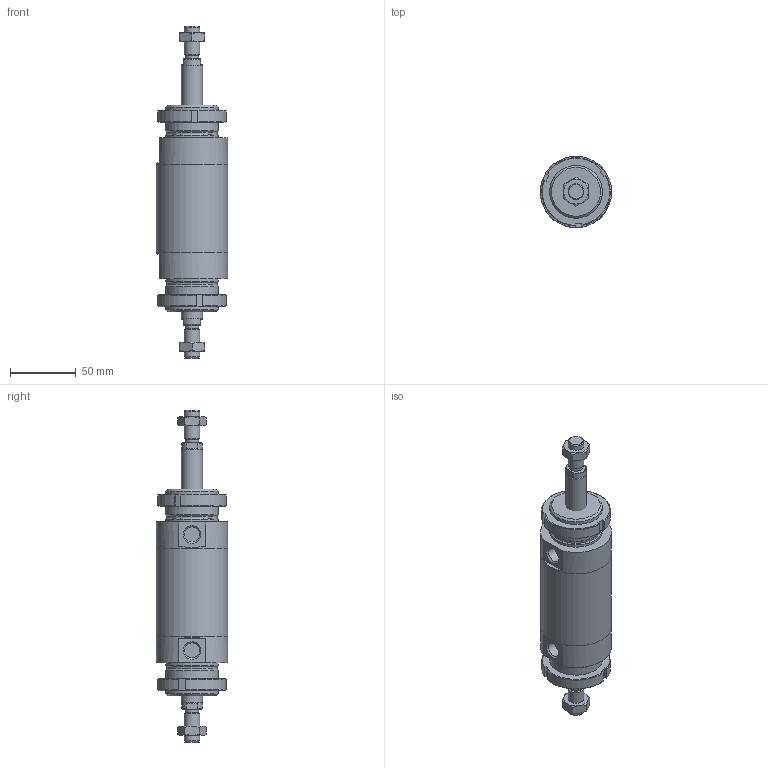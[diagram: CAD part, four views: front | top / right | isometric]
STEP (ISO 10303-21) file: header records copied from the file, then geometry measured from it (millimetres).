
FILE_DESCRIPTION(/* description */ (''),/* implementation_level */ '2;1');
FILE_NAME(/* name */ 'I:\Area Tecnica\Documenti\A-Manieri\_Inventor\12X\12X#S_###_####_#_#\12XCS_050_0025_#_#.stp',/* time_stamp */ '2015-05-08T14:18:29+02:00',/* author */ ('maniean1'),/* organization */ ('Pneumax S.p.A.'),/* preprocessor_version */ 'ST-DEVELOPER v15.2',/* originating_system */ 'Autodesk Inventor 2014',/* authorisation */ '');
FILE_SCHEMA (('AUTOMOTIVE_DESIGN { 1 0 10303 214 3 1 1 }'));
Length unit declared in the file: millimetre
Products named in the file (6): C1250_619-0025; 12X50_604; SP12X50_0025; 12X_50_11; G12X_050_05; 12XCS_050_0025_#_#
Bounding box: 54 x 54 x 252 mm (x, y, z)
Volume: 296562.4 mm3; surface area: 79724 mm2
Topology: 8 solids, 8 shells, 133 faces, 304 edges, 195 vertices
Faces by surface type: plane 66, cone 34, cylinder 33
Full cylindrical faces by diameter (mm): 10.2 x2, 11.4 x2, 12 x4, 14 x2, 15.6 x2, 16 x2, 38.2 x2, 40 x6, 50 x2, 54 x3
Entity records: 2300 total; most frequent: CARTESIAN_POINT 435, DIRECTION 388, ORIENTED_EDGE 310, AXIS2_PLACEMENT_3D 166, EDGE_CURVE 155, EDGE_LOOP 130, VERTEX_POINT 117, ADVANCED_FACE 85
